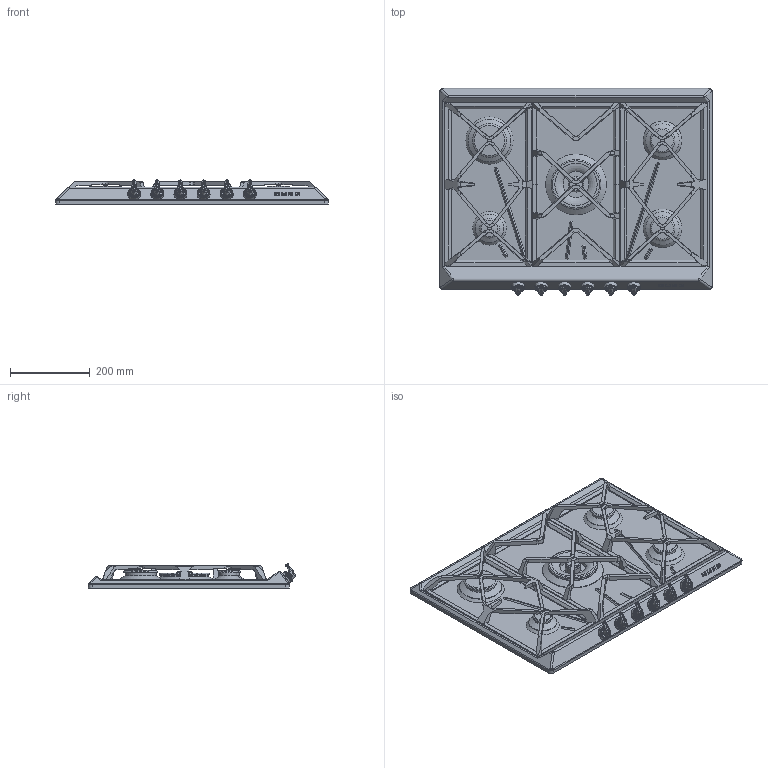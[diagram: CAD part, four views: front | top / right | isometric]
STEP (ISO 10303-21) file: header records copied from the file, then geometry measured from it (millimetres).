
FILE_DESCRIPTION(/* description */ (''),/* implementation_level */ '2;1');
FILE_NAME(/* name */ 'sr975.stp',/* time_stamp */ '2015-10-29T09:59:33+01:00',/* author */ (''),/* organization */ (''),/* preprocessor_version */ 'ST-DEVELOPER v11',/* originating_system */ 'SIEMENS PLM Software NX 7.5',/* authorisation */ '');
FILE_SCHEMA (('AUTOMOTIVE_DESIGN { 1 0 10303 214 1 1 1 1 }'));
Products named in the file (1): FAVE04D8z1lm
Bounding box: 683 x 518.78 x 60.22 mm (x, y, z)
Volume: 6907653 mm3; surface area: 1241888.8 mm2
Topology: 42 solids, 42 shells, 2611 faces, 6193 edges, 3663 vertices
Faces by surface type: plane 829, bspline 532, torus 493, cylinder 436, cone 255, extrusion 32, sphere 22, revolution 12
Full cylindrical faces by diameter (mm): 7 x6, 10 x6, 13 x6, 15 x6, 22.3 x1, 25.5 x6, 28 x6, 38 x1, 42 x1, 43 x1, 55 x2, 56 x2, 65.6 x1, 70.5 x1, 77.5 x1, 78.5 x1, 83 x2, 106 x1, 111 x1, 113.5 x1, 122.009 x1, 152 x1
Entity records: 111492 total; most frequent: CARTESIAN_POINT 54354, ORIENTED_EDGE 11866, DIRECTION 11751, EDGE_CURVE 5933, AXIS2_PLACEMENT_3D 4651, VERTEX_POINT 3614, EDGE_LOOP 2861, ADVANCED_FACE 2611
